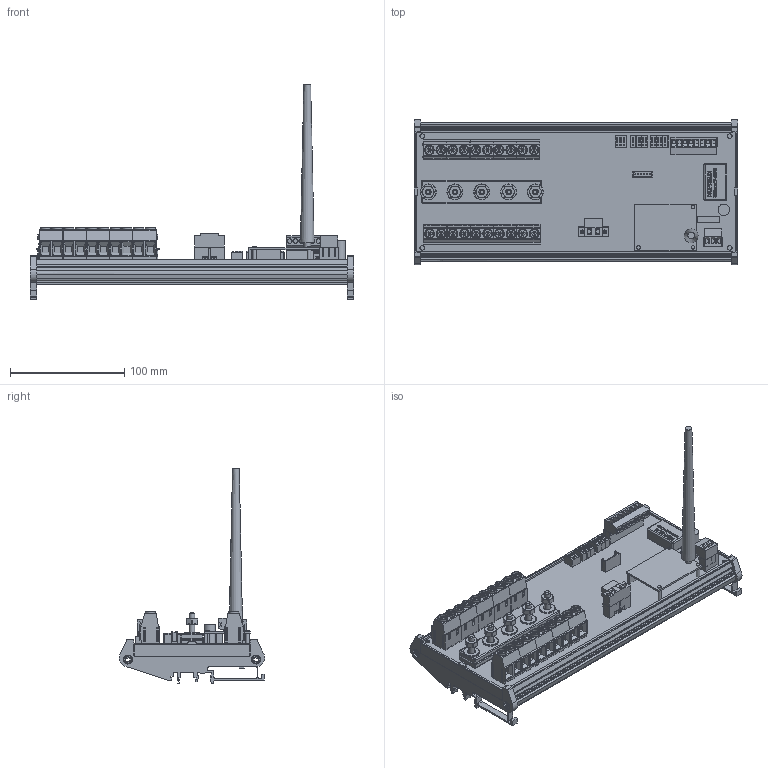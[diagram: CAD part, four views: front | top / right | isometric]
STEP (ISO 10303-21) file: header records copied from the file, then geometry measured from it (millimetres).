
FILE_DESCRIPTION(('FreeCAD Model'),'2;1');
FILE_NAME('C:/3D Files/Stringhe/ST0N/ST0N2025 WR/ST0N2025 WR.step', '2023-01-17T11:34:58',('Author'),(''), 'Open CASCADE STEP processor 7.3','FreeCAD','Unknown');
FILE_SCHEMA(('AUTOMOTIVE_DESIGN { 1 0 10303 214 1 1 1 1 }'));
Length unit declared in the file: millimetre
Products named in the file (53): ST0N2025_WR; Mstb_3P_F; Mstb_3Pc_M; AmpModu_6P_M; DipSwitch4; Dado6MA003; Dado6MA004; Dado6MA005; Dado6MA006; Rondella6; Rondella007; Rondella008; Rondella009; CH_01-02; CH_03-04; CH_05-06; CH_11-12; CH_13-14; CH_15-16; CN3_M; CN3_F; IB2405LS-1W; ELNA_470_uF_35_V; VTBSE-6x35; VTBSE-6x031; VTBSE-6x032; VTBSE-6x033; CH_07-08; CH_17-18; Mstb_8P_F; Mstb_8Pc_M; CH_09-10; CH_19-20; Barra_105_mm001; Barra_105_mm002; Barra_105_mm003; Stampato_279,7_x_108; VTBSE-6x034; Rondella010; Dado6MA007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
Assembly tree (52 placements, depth 2):
  ST0N2025_WR
    Mstb_3P_F
    Mstb_3Pc_M
    AmpModu_6P_M
    DipSwitch4
    Dado6MA003
    Dado6MA004
    Dado6MA005
    Dado6MA006
    Rondella6
    Rondella007
    Rondella008
    Rondella009
    CH_01-02
    CH_03-04
    CH_05-06
    CH_11-12
    CH_13-14
    CH_15-16
    CN3_M
    CN3_F
    IB2405LS-1W
    ELNA_470_uF_35_V
    VTBSE-6x35
    VTBSE-6x031
    VTBSE-6x032
    VTBSE-6x033
    CH_07-08
    CH_17-18
    Mstb_8P_F
    Mstb_8Pc_M
    CH_09-10
    CH_19-20
    Barra_105_mm001
    Barra_105_mm002
    Barra_105_mm003
    Stampato_279,7_x_108
    VTBSE-6x034
    Rondella010
    Dado6MA007
    Profilo_284x128
    WRB2403ZP-6WR003
    Spacer-002
    Strip_7x1_e108
    Spacer-003
    E108_Module
    Base_Antenna
    Antenna
    Spacer-001
    DipSwitch008
    DipSwitch007
    DipSwitch006
    DipSwitch005
Bounding box: 284 x 127.59 x 188.79 mm (x, y, z)
Volume: 310628.1 mm3; surface area: 307619.2 mm2
Topology: 84 solids, 123 shells, 4826 faces, 15066 edges, 15818 vertices
Faces by surface type: plane 3557, cylinder 855, bspline 185, cone 102, torus 73, sphere 52, extrusion 2
Full cylindrical faces by diameter (mm): 0.5 x4, 0.75 x52, 1 x10, 1.5 x11, 1.6 x2, 1.8 x2, 2.05 x2, 2.5 x2, 3.1 x3, 3.3 x2, 3.5 x2, 3.8 x2, 4 x19, 4.3 x2, 4.917 x5, 5 x10, 6 x1, 6.6 x5, 7 x15, 7.2 x20, 7.5 x20, 7.9 x4, 8.66 x20, 9.202 x2, 10 x6, 14 x5
Entity records: 385916 total; most frequent: CARTESIAN_POINT 86673, DIRECTION 47859, VECTOR 31923, LINE 31921, ORIENTED_EDGE 25709, PCURVE 25709, DEFINITIONAL_REPRESENTATION 25709, EDGE_CURVE 13217
